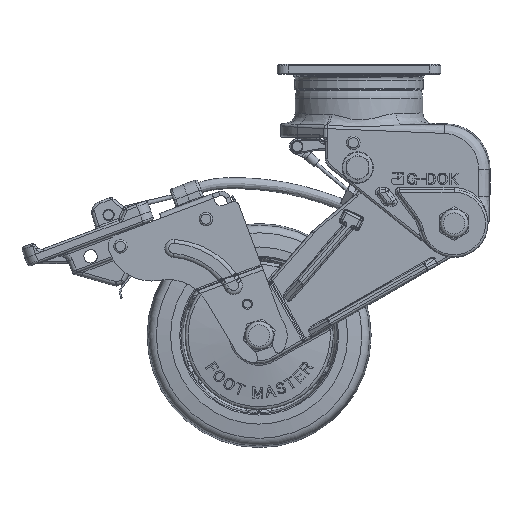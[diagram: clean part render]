
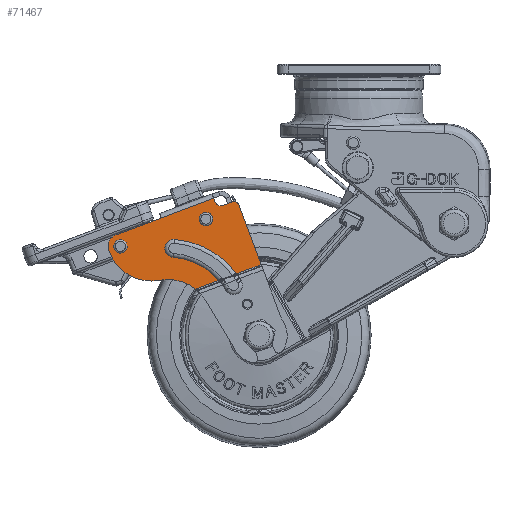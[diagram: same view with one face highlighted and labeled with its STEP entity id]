
A CAD part, front view. The second image highlights one B-rep face of the part: STEP entity #71467.
In plain terms, the highlighted planar face has unit normal (0, -1, 0).
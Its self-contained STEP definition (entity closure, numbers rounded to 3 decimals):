
#4312=FACE_BOUND('',#12533,.T.);
#4313=FACE_BOUND('',#12534,.T.);
#4676=PLANE('',#76791);
#8223=FACE_OUTER_BOUND('',#12532,.T.);
#12532=EDGE_LOOP('',(#49605,#49606,#49607,#49608,#49609,#49610,#49611,#49612,
#49613,#49614,#49615,#49616,#49617,#49618,#49619,#49620,#49621));
#12533=EDGE_LOOP('',(#49622));
#12534=EDGE_LOOP('',(#49623));
#16698=LINE('',#123043,#21075);
#16699=LINE('',#123045,#21076);
#16700=LINE('',#123049,#21077);
#16701=LINE('',#123053,#21078);
#16702=LINE('',#123055,#21079);
#16703=LINE('',#123057,#21080);
#16704=LINE('',#123061,#21081);
#16705=LINE('',#123067,#21082);
#21075=VECTOR('',#86643,10.);
#21076=VECTOR('',#86644,8.587);
#21077=VECTOR('',#86647,4.474);
#21078=VECTOR('',#86650,3.5);
#21079=VECTOR('',#86651,10.);
#21080=VECTOR('',#86652,21.526);
#21081=VECTOR('',#86655,10.);
#21082=VECTOR('',#86660,10.);
#25732=CIRCLE('',#76777,2.25);
#25743=CIRCLE('',#76792,38.);
#25744=CIRCLE('',#76793,38.);
#25745=CIRCLE('',#76794,2.);
#25746=CIRCLE('',#76795,3.);
#25747=CIRCLE('',#76796,5.5);
#25748=CIRCLE('',#76797,20.);
#25749=CIRCLE('',#76798,20.);
#25750=CIRCLE('',#76799,30.);
#25751=CIRCLE('',#76800,4.);
#25752=CIRCLE('',#76801,2.25);
#29421=VERTEX_POINT('',#122994);
#29440=VERTEX_POINT('',#123037);
#29441=VERTEX_POINT('',#123038);
#29442=VERTEX_POINT('',#123040);
#29443=VERTEX_POINT('',#123042);
#29444=VERTEX_POINT('',#123044);
#29445=VERTEX_POINT('',#123046);
#29446=VERTEX_POINT('',#123048);
#29447=VERTEX_POINT('',#123050);
#29448=VERTEX_POINT('',#123052);
#29449=VERTEX_POINT('',#123054);
#29450=VERTEX_POINT('',#123056);
#29451=VERTEX_POINT('',#123058);
#29452=VERTEX_POINT('',#123060);
#29453=VERTEX_POINT('',#123062);
#29454=VERTEX_POINT('',#123064);
#29455=VERTEX_POINT('',#123066);
#29456=VERTEX_POINT('',#123068);
#29457=VERTEX_POINT('',#123071);
#36808=EDGE_CURVE('',#29421,#29421,#25732,.T.);
#36827=EDGE_CURVE('',#29440,#29441,#25743,.T.);
#36828=EDGE_CURVE('',#29441,#29442,#25744,.T.);
#36829=EDGE_CURVE('',#29442,#29443,#16698,.T.);
#36830=EDGE_CURVE('',#29444,#29443,#16699,.T.);
#36831=EDGE_CURVE('',#29445,#29444,#25745,.T.);
#36832=EDGE_CURVE('',#29446,#29445,#16700,.T.);
#36833=EDGE_CURVE('',#29447,#29446,#25746,.T.);
#36834=EDGE_CURVE('',#29448,#29447,#16701,.T.);
#36835=EDGE_CURVE('',#29449,#29448,#16702,.T.);
#36836=EDGE_CURVE('',#29450,#29449,#16703,.T.);
#36837=EDGE_CURVE('',#29451,#29450,#25747,.T.);
#36838=EDGE_CURVE('',#29452,#29451,#16704,.T.);
#36839=EDGE_CURVE('',#29453,#29452,#25748,.T.);
#36840=EDGE_CURVE('',#29453,#29454,#25749,.T.);
#36841=EDGE_CURVE('',#29454,#29455,#16705,.T.);
#36842=EDGE_CURVE('',#29455,#29456,#25750,.T.);
#36843=EDGE_CURVE('',#29456,#29440,#25751,.T.);
#36844=EDGE_CURVE('',#29457,#29457,#25752,.T.);
#49605=ORIENTED_EDGE('',*,*,#36827,.T.);
#49606=ORIENTED_EDGE('',*,*,#36828,.T.);
#49607=ORIENTED_EDGE('',*,*,#36829,.T.);
#49608=ORIENTED_EDGE('',*,*,#36830,.F.);
#49609=ORIENTED_EDGE('',*,*,#36831,.F.);
#49610=ORIENTED_EDGE('',*,*,#36832,.F.);
#49611=ORIENTED_EDGE('',*,*,#36833,.F.);
#49612=ORIENTED_EDGE('',*,*,#36834,.F.);
#49613=ORIENTED_EDGE('',*,*,#36835,.F.);
#49614=ORIENTED_EDGE('',*,*,#36836,.F.);
#49615=ORIENTED_EDGE('',*,*,#36837,.F.);
#49616=ORIENTED_EDGE('',*,*,#36838,.F.);
#49617=ORIENTED_EDGE('',*,*,#36839,.F.);
#49618=ORIENTED_EDGE('',*,*,#36840,.T.);
#49619=ORIENTED_EDGE('',*,*,#36841,.T.);
#49620=ORIENTED_EDGE('',*,*,#36842,.T.);
#49621=ORIENTED_EDGE('',*,*,#36843,.T.);
#49622=ORIENTED_EDGE('',*,*,#36844,.F.);
#49623=ORIENTED_EDGE('',*,*,#36808,.F.);
#71467=ADVANCED_FACE('',(#8223,#4312,#4313),#4676,.F.);
#76777=AXIS2_PLACEMENT_3D('',#122996,#86601,#86602);
#76791=AXIS2_PLACEMENT_3D('',#123036,#86637,#86638);
#76792=AXIS2_PLACEMENT_3D('',#123039,#86639,#86640);
#76793=AXIS2_PLACEMENT_3D('',#123041,#86641,#86642);
#76794=AXIS2_PLACEMENT_3D('',#123047,#86645,#86646);
#76795=AXIS2_PLACEMENT_3D('',#123051,#86648,#86649);
#76796=AXIS2_PLACEMENT_3D('',#123059,#86653,#86654);
#76797=AXIS2_PLACEMENT_3D('',#123063,#86656,#86657);
#76798=AXIS2_PLACEMENT_3D('',#123065,#86658,#86659);
#76799=AXIS2_PLACEMENT_3D('',#123069,#86661,#86662);
#76800=AXIS2_PLACEMENT_3D('',#123070,#86663,#86664);
#76801=AXIS2_PLACEMENT_3D('',#123072,#86665,#86666);
#86601=DIRECTION('center_axis',(0.,-1.,0.));
#86602=DIRECTION('ref_axis',(0.,0.,-1.));
#86637=DIRECTION('center_axis',(0.,1.,0.));
#86638=DIRECTION('ref_axis',(-0.936,0.,-0.351));
#86639=DIRECTION('center_axis',(0.,1.,0.));
#86640=DIRECTION('ref_axis',(0.861,0.,0.508));
#86641=DIRECTION('center_axis',(0.,1.,0.));
#86642=DIRECTION('ref_axis',(0.861,0.,0.508));
#86643=DIRECTION('',(0.936,0.,0.351));
#86644=DIRECTION('',(0.351,0.,-0.936));
#86645=DIRECTION('center_axis',(0.,1.,0.));
#86646=DIRECTION('ref_axis',(0.936,0.,0.351));
#86647=DIRECTION('',(0.936,0.,0.351));
#86648=DIRECTION('center_axis',(0.,-1.,0.));
#86649=DIRECTION('ref_axis',(0.936,0.,0.351));
#86650=DIRECTION('',(0.351,0.,-0.936));
#86651=DIRECTION('',(0.936,0.,0.351));
#86652=DIRECTION('',(0.936,0.,0.351));
#86653=DIRECTION('center_axis',(0.,1.,0.));
#86654=DIRECTION('ref_axis',(0.936,0.,0.351));
#86655=DIRECTION('',(-0.351,0.,0.936));
#86656=DIRECTION('center_axis',(0.,1.,0.));
#86657=DIRECTION('ref_axis',(0.936,0.,0.351));
#86658=DIRECTION('center_axis',(0.,1.,0.));
#86659=DIRECTION('ref_axis',(0.861,0.,0.508));
#86660=DIRECTION('',(0.936,0.,0.351));
#86661=DIRECTION('center_axis',(0.,-1.,0.));
#86662=DIRECTION('ref_axis',(-0.861,0.,-0.508));
#86663=DIRECTION('center_axis',(0.,1.,0.));
#86664=DIRECTION('ref_axis',(0.078,0.,0.997));
#86665=DIRECTION('center_axis',(0.,-1.,0.));
#86666=DIRECTION('ref_axis',(0.,0.,-1.));
#122994=CARTESIAN_POINT('',(-105.644,-26.,-83.31));
#122996=CARTESIAN_POINT('Origin',(-106.434,-26.,-81.203));
#123036=CARTESIAN_POINT('Origin',(-84.175,-26.,-39.473));
#123037=CARTESIAN_POINT('',(-82.283,-26.,-78.086));
#123038=CARTESIAN_POINT('',(-54.916,-26.,-93.056));
#123039=CARTESIAN_POINT('Origin',(-85.229,-26.,-115.972));
#123040=CARTESIAN_POINT('',(-54.609,-26.,-93.468));
#123041=CARTESIAN_POINT('Origin',(-85.229,-26.,-115.972));
#123042=CARTESIAN_POINT('',(-43.579,-26.,-89.332));
#123043=CARTESIAN_POINT('',(-43.579,-26.,-89.332));
#123044=CARTESIAN_POINT('',(-53.648,-26.,-62.479));
#123045=CARTESIAN_POINT('',(-53.648,-26.,-62.479));
#123046=CARTESIAN_POINT('',(-56.223,-26.,-61.308));
#123047=CARTESIAN_POINT('Origin',(-55.52,-26.,-63.181));
#123048=CARTESIAN_POINT('',(-60.412,-26.,-62.879));
#123049=CARTESIAN_POINT('',(-60.412,-26.,-62.879));
#123050=CARTESIAN_POINT('',(-64.274,-26.,-61.123));
#123051=CARTESIAN_POINT('Origin',(-61.465,-26.,-60.07));
#123052=CARTESIAN_POINT('',(-64.8,-26.,-59.719));
#123053=CARTESIAN_POINT('',(-65.503,-26.,-57.846));
#123054=CARTESIAN_POINT('',(-88.209,-26.,-68.496));
#123055=CARTESIAN_POINT('',(-85.654,-26.,-67.538));
#123056=CARTESIAN_POINT('',(-108.365,-26.,-76.053));
#123057=CARTESIAN_POINT('',(-108.365,-26.,-76.053));
#123058=CARTESIAN_POINT('',(-111.584,-26.,-83.134));
#123059=CARTESIAN_POINT('Origin',(-106.434,-26.,-81.203));
#123060=CARTESIAN_POINT('',(-111.376,-26.,-83.688));
#123061=CARTESIAN_POINT('',(-108.073,-26.,-92.498));
#123062=CARTESIAN_POINT('',(-88.939,-26.,-96.319));
#123063=CARTESIAN_POINT('Origin',(-92.649,-26.,-76.666));
#123064=CARTESIAN_POINT('',(-72.812,-26.,-100.293));
#123065=CARTESIAN_POINT('Origin',(-85.229,-26.,-115.972));
#123066=CARTESIAN_POINT('',(-62.477,-26.,-96.418));
#123067=CARTESIAN_POINT('',(-43.579,-26.,-89.332));
#123068=CARTESIAN_POINT('',(-82.903,-26.,-86.062));
#123069=CARTESIAN_POINT('Origin',(-85.229,-26.,-115.972));
#123070=CARTESIAN_POINT('Origin',(-82.593,-26.,-82.074));
#123071=CARTESIAN_POINT('',(-67.484,-26.,-71.152));
#123072=CARTESIAN_POINT('Origin',(-68.273,-26.,-69.045));
